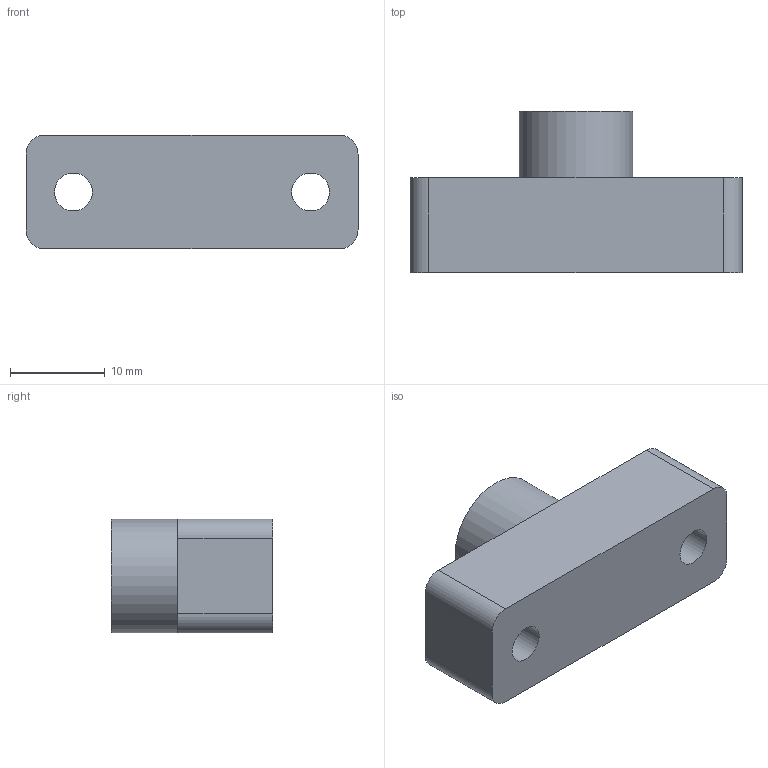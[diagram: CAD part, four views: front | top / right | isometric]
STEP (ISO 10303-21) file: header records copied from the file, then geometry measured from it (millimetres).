
FILE_DESCRIPTION(/* description */ (''),/* implementation_level */ '2;1');
FILE_NAME(/* name */ 'Iris-mount.stp',/* time_stamp */ '2026-04-13T15:00:08+08:00',/* author */ ('lbx20'),/* organization */ (''),/* preprocessor_version */ 'ST-DEVELOPER v20.1',/* originating_system */ 'Autodesk Inventor 2026',/* authorisation */ '');
FILE_SCHEMA (('AUTOMOTIVE_DESIGN { 1 0 10303 214 3 1 1 }'));
Length unit declared in the file: millimetre
Products named in the file (1): Iris-mount
Bounding box: 35 x 17 x 12 mm (x, y, z)
Volume: 4279.5 mm3; surface area: 2390.5 mm2
Topology: 1 solids, 1 shells, 21 faces, 46 edges, 30 vertices
Faces by surface type: plane 11, cylinder 10
Full cylindrical faces by diameter (mm): 3.242 x1, 4 x2, 8 x2, 12 x1
Entity records: 637 total; most frequent: DIRECTION 112, CARTESIAN_POINT 98, ORIENTED_EDGE 92, EDGE_CURVE 46, AXIS2_PLACEMENT_3D 44, VERTEX_POINT 30, EDGE_LOOP 28, LINE 24
